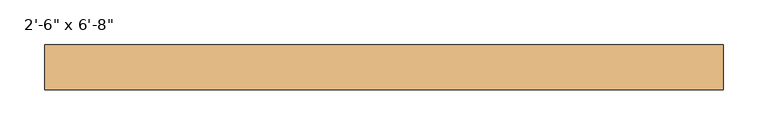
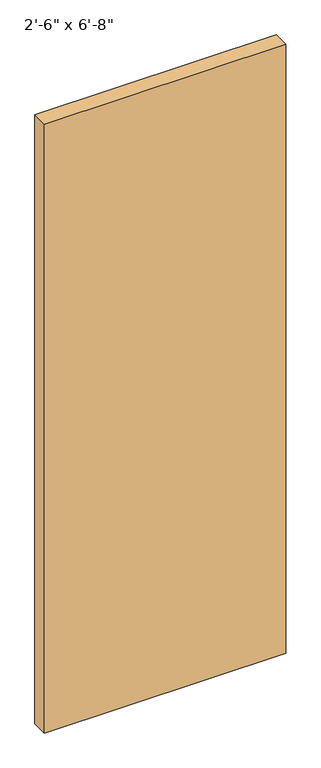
"""IFC4 building model written with IfcOpenShell, lengths in millimetres: door geometry."""

from ifc_helpers import new_model, si_unit, origin, origin_with_axes, place, context, project, spatial, polyline, outline, extrude, source, transform, mapped, element, save


def door_33e9856f(model_context):
    return source(origin(), model_context, "Body", "SweptSolid", [
        extrude(outline(polyline([(381.0, -31.55), (381.0, -82.55), (-381.0, -82.55), (-381.0, -31.55), (381.0, -31.55)])), origin_with_axes(), (0.0, 0.0, 1.0), 2032.0),
    ])


if __name__ == "__main__":
    model = new_model("IFC4")
    model_context = context("Model", 3, world=origin())
    ifc_project = project(units=[si_unit("LENGTHUNIT", "METRE", prefix="MILLI")], contexts=[model_context])
    site = spatial("IfcSite", under=ifc_project)
    building = spatial("IfcBuilding", under=site)
    placement = place(None, origin())
    door_shape = door_33e9856f(model_context)
    element("IfcDoor", 1, ObjectType="Planitar - Single Door_Flush Panel : 2'-6\" x 6'-8\"", at=placement, inside=building, context=model_context, shape_type="MappedRepresentation", body=[
        mapped(door_shape, transform((0.0, 0.0, 0.0), x_axis=(1.0, 0.0, 0.0), y_axis=(0.0, 1.0, 0.0), z_axis=(0.0, 0.0, 1.0))),
    ])
    save(model, "model.ifc")
